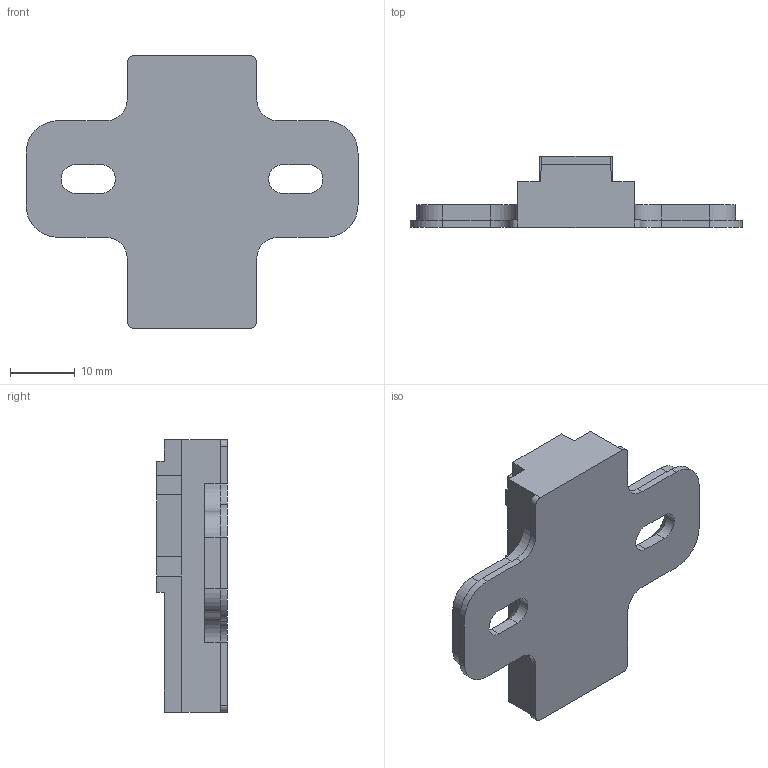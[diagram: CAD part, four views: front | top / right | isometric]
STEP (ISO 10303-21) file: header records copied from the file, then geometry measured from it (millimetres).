
FILE_DESCRIPTION (( 'STEP AP203' ), '1' );
FILE_NAME ('H20AQ (DTC3D).STEP', '2021-04-09T05:54:24', ( '' ), ( '' ), 'SwSTEP 2.0', 'SolidWorks 2018', '' );
FILE_SCHEMA (( 'CONFIG_CONTROL_DESIGN' ));
Length unit declared in the file: millimetre
Products named in the file (1): H20AQ (DTC3D)
Bounding box: 51.2 x 10.9 x 42 mm (x, y, z)
Volume: 8374.8 mm3; surface area: 4126.5 mm2
Topology: 1 solids, 1 shells, 86 faces, 240 edges, 156 vertices
Faces by surface type: plane 58, cylinder 24, cone 4
Entity records: 2825 total; most frequent: CARTESIAN_POINT 483, ORIENTED_EDGE 480, DIRECTION 466, EDGE_CURVE 240, LINE 188, VECTOR 188, VERTEX_POINT 156, AXIS2_PLACEMENT_3D 139
